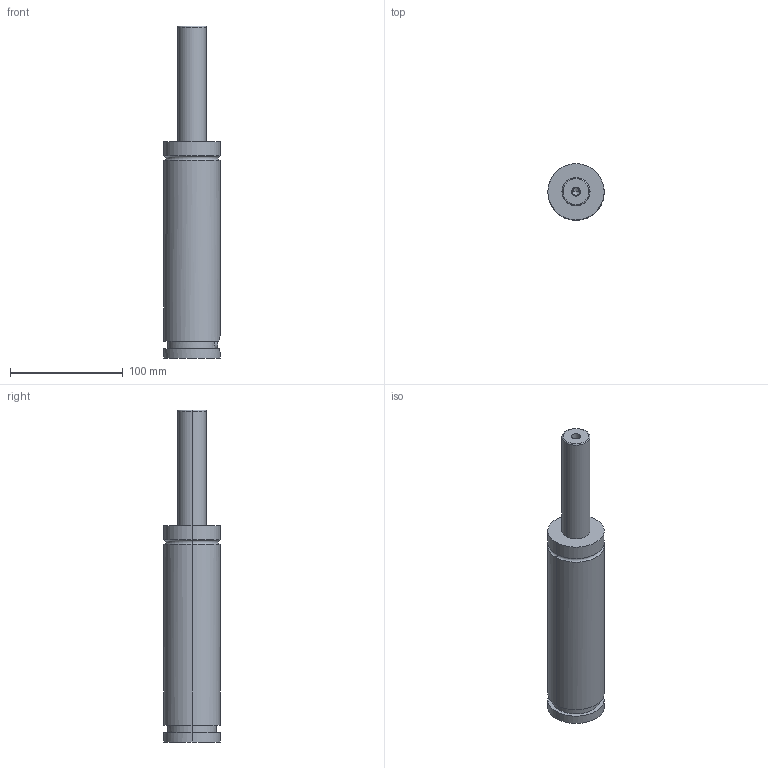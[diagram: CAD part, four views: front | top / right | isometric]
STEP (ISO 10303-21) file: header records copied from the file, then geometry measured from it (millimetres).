
FILE_DESCRIPTION(/* description */ (''),/* implementation_level */ '2;1');
FILE_NAME(/* name */ '3d_gse50-100_03860_r00.stp',/* time_stamp */ '2011-01-10T14:15:19+09:00',/* author */ ('MISUMI'),/* organization */ (''),/* preprocessor_version */ 'ST-DEVELOPER v11',/* originating_system */ 'UGS - NX 5.0',/* authorisation */ '');
FILE_SCHEMA (('CONFIG_CONTROL_DESIGN'));
Length unit declared in the file: millimetre
Products named in the file (1): 3d_gse50-100_03860_r00
Bounding box: 50 x 50 x 295 mm (x, y, z)
Volume: 420493.6 mm3; surface area: 44691.5 mm2
Topology: 1 solids, 1 shells, 57 faces, 125 edges, 79 vertices
Faces by surface type: cylinder 26, plane 21, cone 6, torus 4
Entity records: 1669 total; most frequent: DIRECTION 297, CARTESIAN_POINT 286, ORIENTED_EDGE 246, EDGE_CURVE 123, AXIS2_PLACEMENT_3D 122, VERTEX_POINT 79, EDGE_LOOP 68, CIRCLE 64
